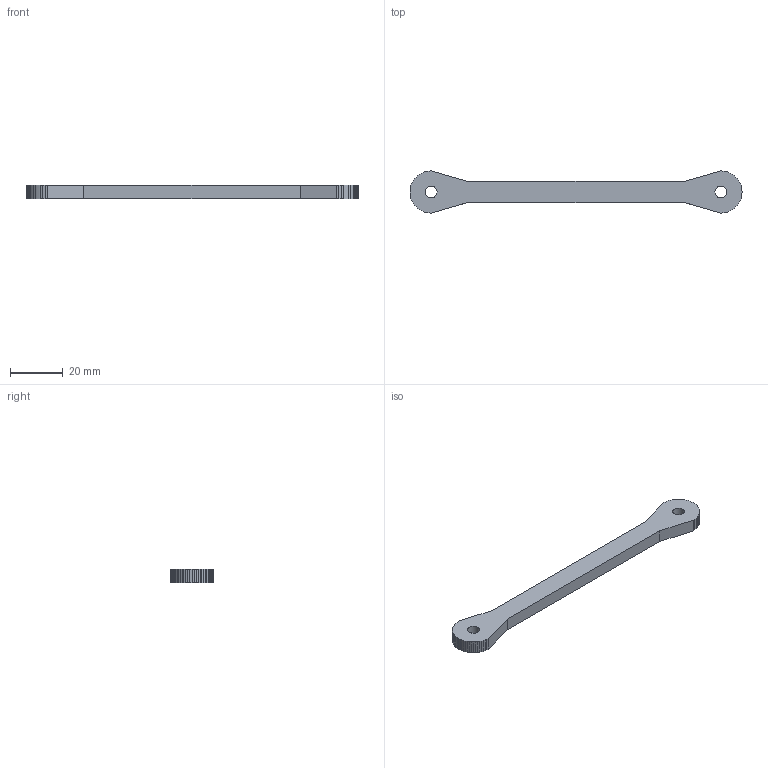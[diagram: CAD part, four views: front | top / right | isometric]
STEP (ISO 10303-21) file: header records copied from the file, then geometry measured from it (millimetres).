
FILE_DESCRIPTION(('Open CASCADE Model'),'2;1');
FILE_NAME('Open CASCADE Shape Model','2026-10-06T09:41:55',('Author'),( 'Open CASCADE'),'Open CASCADE STEP processor 7.8','Open CASCADE 7.8' ,'Unknown');
FILE_SCHEMA(('AUTOMOTIVE_DESIGN { 1 0 10303 214 1 1 1 1 }'));
Length unit declared in the file: millimetre
Products named in the file (1): Open CASCADE STEP translator 7.8 6
Bounding box: 126 x 16 x 5 mm (x, y, z)
Volume: 5804.7 mm3; surface area: 3825.7 mm2
Topology: 1 solids, 1 shells, 74 faces, 216 edges, 144 vertices
Faces by surface type: plane 72, cylinder 2
Full cylindrical faces by diameter (mm): 4.5 x2
Entity records: 5242 total; most frequent: CARTESIAN_POINT 891, DIRECTION 798, LINE 640, VECTOR 640, ORIENTED_EDGE 432, PCURVE 432, DEFINITIONAL_REPRESENTATION 432, EDGE_CURVE 216
